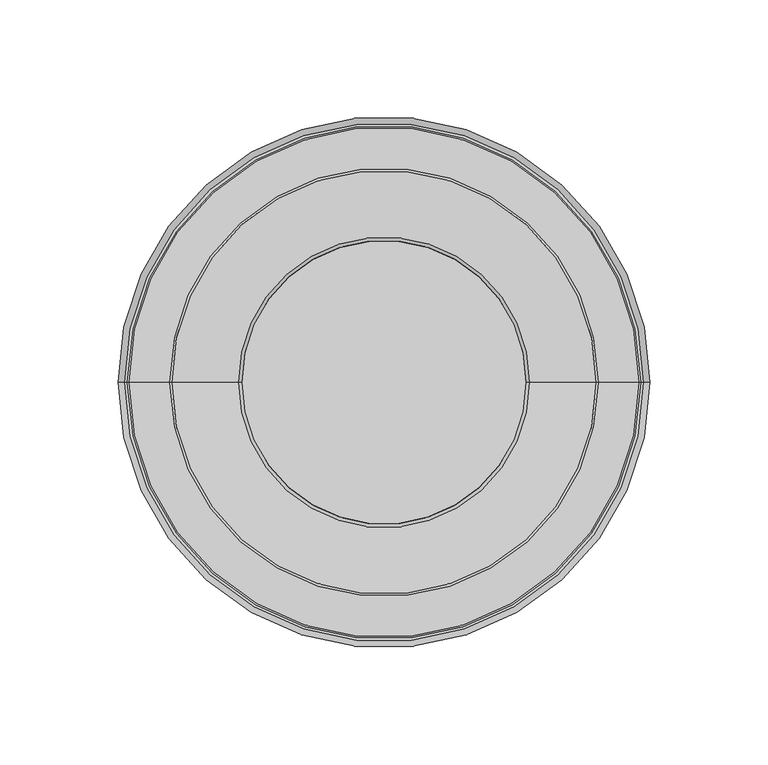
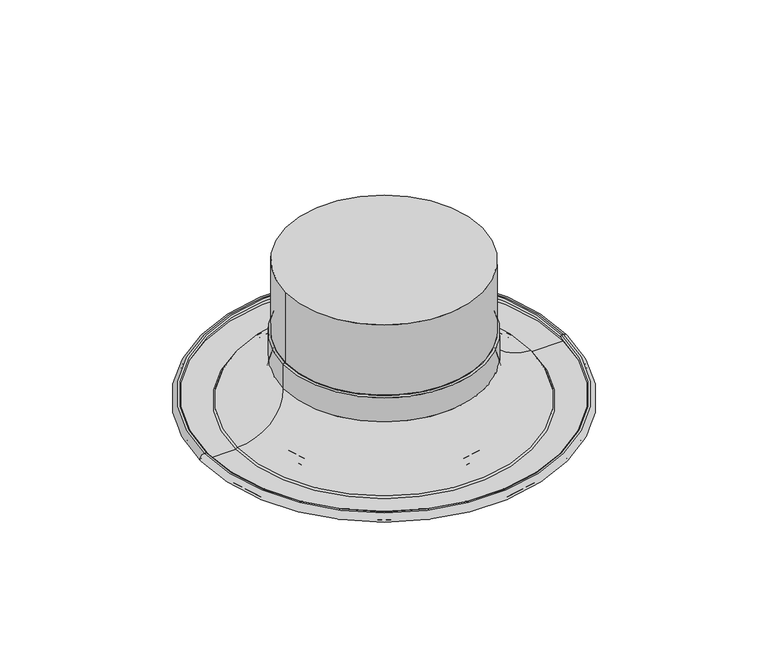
"""IFC4 building model written with IfcOpenShell, lengths in millimetres: air terminal geometry, AI_Bouche aération_Circulaire Extraction : ø125 mm."""

from ifc_helpers import new_model, si_unit, point, frame, origin, origin_with_axes, origin_2d, place, context, project, spatial, polyline, circle_curve, ellipse_curve, trimmed, segment, composite_curve, outline, extrude, source, transform, mapped, element, save
from ifc_brep_helpers import plane_surface, cylinder_surface, revolved_surface, advanced_brep


def air_terminal_857865db(model_context):
    return source(origin(), model_context, "Body", "SolidModel", [
        extrude(outline(composite_curve([segment(trimmed(circle_curve(origin_2d(), 60.0), [point((60.0, 0.0))], [point((-60.0, 0.0))], False, "CARTESIAN"), True, "CONTINUOUS"), segment(trimmed(circle_curve(origin_2d(), 60.0), [point((-60.0, 0.0))], [point((60.0, 0.0))], False, "CARTESIAN"), True, "CONTINUOUS")], self_intersect=False)), frame((0.0, 0.0, 41.2), z_axis=(0.0, 0.0, 1.0), x_axis=(1.0, 0.0, 0.0)), (0.0, 0.0, 1.0), 45.4),
        advanced_brep(
        [(-42.4021074, 0.0, 20.3), (-44.6975243, 0.0, 18.1451243), (44.6975243, 0.0, 18.1451243), (42.4021074, 0.0, 20.3), (-40.0, 0.0, 20.3), (40.0, 0.0, 20.3), (-40.0, 0.0, 19.0), (40.0, 0.0, 19.0), (-42.4021074, 0.0, 19.0), (42.4021074, 0.0, 19.0), (-43.4001147, 0.0, 18.0630975), (43.4001147, 0.0, 18.0630975), (-68.5, 0.0, -5.5), (68.5, 0.0, -5.5), (-73.27, 0.0, -5.5), (73.27, 0.0, -5.5), (-73.27, 0.0, -0.7), (73.27, 0.0, -0.7), (-72.27, 0.0, -0.7), (72.27, 0.0, -0.7), (-72.27, 0.0, -2.0), (72.27, 0.0, -2.0), (-73.27, 0.0, -2.0), (73.27, 0.0, -2.0), (-73.27, 0.0, -4.2), (73.27, 0.0, -4.2), (-68.5, 0.0, -4.2), (68.5, 0.0, -4.2)],
        [
            (0, 1, circle_curve(frame((-42.4021074, 0.0, 18.0), z_axis=(0.0, -1.0, 0.0), x_axis=(-1.0, 0.0, 0.0)), 2.3)),
            (1, 2, circle_curve(frame((0.0, 0.0, 18.1451243), z_axis=(0.0, 0.0, 1.0), x_axis=(1.0, 0.0, 0.0)), 44.6975243)),
            (2, 3, circle_curve(frame((42.4021074, 0.0, 18.0), z_axis=(0.0, -1.0, 0.0), x_axis=(1.0, 0.0, 0.0)), 2.3)),
            (3, 0, circle_curve(frame((0.0, 0.0, 20.3), z_axis=(0.0, 0.0, -1.0), x_axis=(1.0, 0.0, 0.0)), 42.4021074)),
            (2, 1, circle_curve(frame((0.0, 0.0, 18.1451243), z_axis=(0.0, 0.0, 1.0), x_axis=(1.0, 0.0, 0.0)), 44.6975243)),
            (0, 3, circle_curve(frame((0.0, 0.0, 20.3), z_axis=(0.0, 0.0, -1.0), x_axis=(1.0, 0.0, 0.0)), 42.4021074)),
            (4, 0),
            (3, 5),
            (5, 4, circle_curve(frame((0.0, 0.0, 20.3), z_axis=(0.0, 0.0, -1.0), x_axis=(1.0, 0.0, 0.0)), 40.0)),
            (4, 5, circle_curve(frame((0.0, 0.0, 20.3), z_axis=(0.0, 0.0, -1.0), x_axis=(1.0, 0.0, 0.0)), 40.0)),
            (6, 4, circle_curve(frame((-40.0, 0.0, 19.65), z_axis=(0.0, -1.0, 0.0), x_axis=(-1.0, 0.0, 0.0)), 0.65)),
            (5, 7, circle_curve(frame((40.0, 0.0, 19.65), z_axis=(0.0, -1.0, 0.0), x_axis=(1.0, 0.0, 0.0)), 0.65)),
            (7, 6, circle_curve(frame((0.0, 0.0, 19.0), z_axis=(0.0, 0.0, -1.0), x_axis=(1.0, 0.0, 0.0)), 40.0)),
            (6, 7, circle_curve(frame((0.0, 0.0, 19.0), z_axis=(0.0, 0.0, -1.0), x_axis=(1.0, 0.0, 0.0)), 40.0)),
            (8, 6),
            (7, 9),
            (9, 8, circle_curve(frame((0.0, 0.0, 19.0), z_axis=(0.0, 0.0, -1.0), x_axis=(1.0, 0.0, 0.0)), 42.4021074)),
            (8, 9, circle_curve(frame((0.0, 0.0, 19.0), z_axis=(0.0, 0.0, -1.0), x_axis=(1.0, 0.0, 0.0)), 42.4021074)),
            (10, 8, circle_curve(frame((-42.4021074, 0.0, 18.0), z_axis=(0.0, 1.0, 0.0), x_axis=(-1.0, 0.0, 0.0)), 1.0)),
            (9, 11, circle_curve(frame((42.4021074, 0.0, 18.0), z_axis=(0.0, 1.0, 0.0), x_axis=(1.0, 0.0, 0.0)), 1.0)),
            (11, 10, circle_curve(frame((0.0, 0.0, 18.0630975), z_axis=(0.0, 0.0, -1.0), x_axis=(1.0, 0.0, 0.0)), 43.4001147)),
            (10, 11, circle_curve(frame((0.0, 0.0, 18.0630975), z_axis=(0.0, 0.0, -1.0), x_axis=(1.0, 0.0, 0.0)), 43.4001147)),
            (12, 10, circle_curve(frame((-68.5, 0.0, 19.65), z_axis=(0.0, -1.0, 0.0), x_axis=(-1.0, 0.0, 0.0)), 25.15)),
            (11, 13, circle_curve(frame((68.5, 0.0, 19.65), z_axis=(0.0, -1.0, 0.0), x_axis=(1.0, 0.0, 0.0)), 25.15)),
            (13, 12, circle_curve(frame((0.0, 0.0, -5.5), z_axis=(0.0, 0.0, -1.0), x_axis=(1.0, 0.0, 0.0)), 68.5)),
            (12, 13, circle_curve(frame((0.0, 0.0, -5.5), z_axis=(0.0, 0.0, -1.0), x_axis=(1.0, 0.0, 0.0)), 68.5)),
            (14, 12),
            (13, 15),
            (15, 14, circle_curve(frame((0.0, 0.0, -5.5), z_axis=(0.0, 0.0, -1.0), x_axis=(1.0, 0.0, 0.0)), 73.27)),
            (14, 15, circle_curve(frame((0.0, 0.0, -5.5), z_axis=(0.0, 0.0, -1.0), x_axis=(1.0, 0.0, 0.0)), 73.27)),
            (16, 14, circle_curve(frame((-73.27, 0.0, -3.1), z_axis=(0.0, -1.0, 0.0), x_axis=(-1.0, 0.0, 0.0)), 2.4)),
            (15, 17, circle_curve(frame((73.27, 0.0, -3.1), z_axis=(0.0, -1.0, 0.0), x_axis=(1.0, 0.0, 0.0)), 2.4)),
            (17, 16, circle_curve(frame((0.0, 0.0, -0.7), z_axis=(0.0, 0.0, -1.0), x_axis=(1.0, 0.0, 0.0)), 73.27)),
            (16, 17, circle_curve(frame((0.0, 0.0, -0.7), z_axis=(0.0, 0.0, -1.0), x_axis=(1.0, 0.0, 0.0)), 73.27)),
            (18, 16),
            (17, 19),
            (19, 18, circle_curve(frame((0.0, 0.0, -0.7), z_axis=(0.0, 0.0, -1.0), x_axis=(1.0, 0.0, 0.0)), 72.27)),
            (18, 19, circle_curve(frame((0.0, 0.0, -0.7), z_axis=(0.0, 0.0, -1.0), x_axis=(1.0, 0.0, 0.0)), 72.27)),
            (20, 18, circle_curve(frame((-72.27, 0.0, -1.35), z_axis=(0.0, -1.0, 0.0), x_axis=(-1.0, 0.0, 0.0)), 0.65)),
            (19, 21, circle_curve(frame((72.27, 0.0, -1.35), z_axis=(0.0, -1.0, 0.0), x_axis=(1.0, 0.0, 0.0)), 0.65)),
            (21, 20, circle_curve(frame((0.0, 0.0, -2.0), z_axis=(0.0, 0.0, -1.0), x_axis=(1.0, 0.0, 0.0)), 72.27)),
            (20, 21, circle_curve(frame((0.0, 0.0, -2.0), z_axis=(0.0, 0.0, -1.0), x_axis=(1.0, 0.0, 0.0)), 72.27)),
            (22, 20),
            (21, 23),
            (23, 22, circle_curve(frame((0.0, 0.0, -2.0), z_axis=(0.0, 0.0, -1.0), x_axis=(1.0, 0.0, 0.0)), 73.27)),
            (22, 23, circle_curve(frame((0.0, 0.0, -2.0), z_axis=(0.0, 0.0, -1.0), x_axis=(1.0, 0.0, 0.0)), 73.27)),
            (24, 22, circle_curve(frame((-73.27, 0.0, -3.1), z_axis=(0.0, 1.0, 0.0), x_axis=(-1.0, 0.0, 0.0)), 1.1)),
            (23, 25, circle_curve(frame((73.27, 0.0, -3.1), z_axis=(0.0, 1.0, 0.0), x_axis=(1.0, 0.0, 0.0)), 1.1)),
            (25, 24, circle_curve(frame((0.0, 0.0, -4.2), z_axis=(0.0, 0.0, -1.0), x_axis=(1.0, 0.0, 0.0)), 73.27)),
            (24, 25, circle_curve(frame((0.0, 0.0, -4.2), z_axis=(0.0, 0.0, -1.0), x_axis=(1.0, 0.0, 0.0)), 73.27)),
            (26, 24),
            (25, 27),
            (27, 26, circle_curve(frame((0.0, 0.0, -4.2), z_axis=(0.0, 0.0, -1.0), x_axis=(1.0, 0.0, 0.0)), 68.5)),
            (26, 27, circle_curve(frame((0.0, 0.0, -4.2), z_axis=(0.0, 0.0, -1.0), x_axis=(1.0, 0.0, 0.0)), 68.5)),
            (1, 26, circle_curve(frame((-68.5, 0.0, 19.65), z_axis=(0.0, 1.0, 0.0), x_axis=(-1.0, 0.0, 0.0)), 23.85)),
            (27, 2, circle_curve(frame((68.5, 0.0, 19.65), z_axis=(0.0, 1.0, 0.0), x_axis=(1.0, 0.0, 0.0)), 23.85)),
        ],
        [
            revolved_surface(trimmed(ellipse_curve(frame((42.4021074, 0.0, 18.0), z_axis=(0.0, -1.0, 0.0), x_axis=(1.0, 0.0, 0.0)), 2.3, 2.3), [point((44.6975243, 0.0, 18.1451243))], [point((42.4021074, 0.0, 20.3))], True, "CARTESIAN"), (0.0, 0.0, 1789.7688894), (0.0, 0.0, 1.0)),
            plane_surface(frame((0.0, 0.0, 20.3), z_axis=(0.0, 0.0, 1.0), x_axis=(1.0, 0.0, 0.0))),
            revolved_surface(trimmed(ellipse_curve(frame((40.0, 0.0, 19.65), z_axis=(0.0, -1.0, 0.0), x_axis=(1.0, 0.0, 0.0)), 0.65, 0.65), [point((40.0, 0.0, 20.3))], [point((40.0, 0.0, 19.0))], True, "CARTESIAN"), (0.0, 0.0, 1789.7688894), (0.0, 0.0, 1.0)),
            plane_surface(frame((0.0, 0.0, 19.0), z_axis=(0.0, 0.0, -1.0), x_axis=(1.0, 0.0, 0.0))),
            revolved_surface(trimmed(ellipse_curve(frame((42.4021074, 0.0, 18.0), z_axis=(0.0, 1.0, 0.0), x_axis=(1.0, 0.0, 0.0)), 1.0, 1.0), [point((42.4021074, 0.0, 19.0))], [point((43.4001147, 0.0, 18.0630975))], True, "CARTESIAN"), (0.0, 0.0, 1789.7688894), (0.0, 0.0, 1.0)),
            revolved_surface(trimmed(ellipse_curve(frame((68.5, 0.0, 19.65), z_axis=(0.0, -1.0, 0.0), x_axis=(1.0, 0.0, 0.0)), 25.15, 25.15), [point((43.4001147, 0.0, 18.0630975))], [point((68.5, 0.0, -5.5))], True, "CARTESIAN"), (0.0, 0.0, 1789.7688894), (0.0, 0.0, 1.0)),
            plane_surface(frame((0.0, 0.0, -5.5), z_axis=(0.0, 0.0, -1.0), x_axis=(1.0, 0.0, 0.0))),
            revolved_surface(trimmed(ellipse_curve(frame((73.27, 0.0, -3.1), z_axis=(0.0, -1.0, 0.0), x_axis=(1.0, 0.0, 0.0)), 2.4, 2.4), [point((73.27, 0.0, -5.5))], [point((73.27, 0.0, -0.7))], True, "CARTESIAN"), (0.0, 0.0, 1789.7688894), (0.0, 0.0, 1.0)),
            plane_surface(frame((0.0, 0.0, -0.7), z_axis=(0.0, 0.0, 1.0), x_axis=(1.0, 0.0, 0.0))),
            revolved_surface(trimmed(ellipse_curve(frame((72.27, 0.0, -1.35), z_axis=(0.0, -1.0, 0.0), x_axis=(1.0, 0.0, 0.0)), 0.65, 0.65), [point((72.27, 0.0, -0.7))], [point((72.27, 0.0, -2.0))], True, "CARTESIAN"), (0.0, 0.0, 1789.7688894), (0.0, 0.0, 1.0)),
            plane_surface(frame((0.0, 0.0, -2.0), z_axis=(0.0, 0.0, -1.0), x_axis=(1.0, 0.0, 0.0))),
            revolved_surface(trimmed(ellipse_curve(frame((73.27, 0.0, -3.1), z_axis=(0.0, 1.0, 0.0), x_axis=(1.0, 0.0, 0.0)), 1.1, 1.1), [point((73.27, 0.0, -2.0))], [point((73.27, 0.0, -4.2))], True, "CARTESIAN"), (0.0, 0.0, 1789.7688894), (0.0, 0.0, 1.0)),
            plane_surface(frame((0.0, 0.0, -4.2), z_axis=(0.0, 0.0, 1.0), x_axis=(1.0, 0.0, 0.0))),
            revolved_surface(trimmed(ellipse_curve(frame((68.5, 0.0, 19.65), z_axis=(0.0, 1.0, 0.0), x_axis=(1.0, 0.0, 0.0)), 23.85, 23.85), [point((68.5, 0.0, -4.2))], [point((44.6975243, 0.0, 18.1451243))], True, "CARTESIAN"), (0.0, 0.0, 1789.7688894), (0.0, 0.0, 1.0)),
        ],
        [
            (0, [[1, 2, 3, 4]]),
            (0, [[-3, 5, -1, 6]]),
            (1, [[7, -4, 8, 9]]),
            (1, [[-8, -6, -7, 10]]),
            (2, [[11, -9, 12, 13]]),
            (2, [[-12, -10, -11, 14]]),
            (3, [[15, -13, 16, 17]]),
            (3, [[-16, -14, -15, 18]]),
            (4, [[19, -17, 20, 21]]),
            (4, [[-20, -18, -19, 22]]),
            (5, [[23, -21, 24, 25]]),
            (5, [[-24, -22, -23, 26]]),
            (6, [[27, -25, 28, 29]]),
            (6, [[-28, -26, -27, 30]]),
            (7, [[31, -29, 32, 33]]),
            (7, [[-32, -30, -31, 34]]),
            (8, [[35, -33, 36, 37]]),
            (8, [[-36, -34, -35, 38]]),
            (9, [[39, -37, 40, 41]]),
            (9, [[-40, -38, -39, 42]]),
            (10, [[43, -41, 44, 45]]),
            (10, [[-44, -42, -43, 46]]),
            (11, [[47, -45, 48, 49]]),
            (11, [[-48, -46, -47, 50]]),
            (12, [[51, -49, 52, 53]]),
            (12, [[-52, -50, -51, 54]]),
            (13, [[55, -53, 56, -2]]),
            (13, [[-56, -54, -55, -5]]),
        ],
    ),
        advanced_brep(
        [(-41.27, 0.0, -5.5), (-36.5, 0.0, -5.5), (36.5, 0.0, -5.5), (41.27, 0.0, -5.5), (-41.27, 0.0, -0.7), (41.27, 0.0, -0.7), (-40.27, 0.0, -0.7), (40.27, 0.0, -0.7), (-40.27, 0.0, -2.0), (40.27, 0.0, -2.0), (-41.27, 0.0, -2.0), (41.27, 0.0, -2.0), (-41.27, 0.0, -4.2), (41.27, 0.0, -4.2), (-36.5, 0.0, -4.2), (36.5, 0.0, -4.2), (-12.6975243, 0.0, 18.1451243), (12.6975243, 0.0, 18.1451243), (-10.4021074, 0.0, 20.3), (10.4021074, 0.0, 20.3), (0.0, 0.0, 20.3), (-5.8512508, 0.0, 14.3598455), (0.0, 0.0, 14.3598455), (5.8512508, 0.0, 14.3598455), (-6.85, 0.0, 15.3098455), (6.85, 0.0, 15.3098455), (-6.85, 0.0, 19.0), (6.85, 0.0, 19.0), (-10.4021074, 0.0, 19.0), (10.4021074, 0.0, 19.0), (-11.4001147, 0.0, 18.0630975), (11.4001147, 0.0, 18.0630975)],
        [
            (0, 1),
            (1, 2, circle_curve(frame((0.0, 0.0, -5.5), z_axis=(0.0, 0.0, 1.0), x_axis=(1.0, 0.0, 0.0)), 36.5)),
            (2, 3),
            (3, 0, circle_curve(frame((0.0, 0.0, -5.5), z_axis=(0.0, 0.0, -1.0), x_axis=(1.0, 0.0, 0.0)), 41.27)),
            (2, 1, circle_curve(frame((0.0, 0.0, -5.5), z_axis=(0.0, 0.0, 1.0), x_axis=(1.0, 0.0, 0.0)), 36.5)),
            (0, 3, circle_curve(frame((0.0, 0.0, -5.5), z_axis=(0.0, 0.0, -1.0), x_axis=(1.0, 0.0, 0.0)), 41.27)),
            (4, 0, circle_curve(frame((-41.27, 0.0, -3.1), z_axis=(0.0, -1.0, 0.0), x_axis=(-1.0, 0.0, 0.0)), 2.4)),
            (3, 5, circle_curve(frame((41.27, 0.0, -3.1), z_axis=(0.0, -1.0, 0.0), x_axis=(1.0, 0.0, 0.0)), 2.4)),
            (5, 4, circle_curve(frame((0.0, 0.0, -0.7), z_axis=(0.0, 0.0, -1.0), x_axis=(1.0, 0.0, 0.0)), 41.27)),
            (4, 5, circle_curve(frame((0.0, 0.0, -0.7), z_axis=(0.0, 0.0, -1.0), x_axis=(1.0, 0.0, 0.0)), 41.27)),
            (6, 4),
            (5, 7),
            (7, 6, circle_curve(frame((0.0, 0.0, -0.7), z_axis=(0.0, 0.0, -1.0), x_axis=(1.0, 0.0, 0.0)), 40.27)),
            (6, 7, circle_curve(frame((0.0, 0.0, -0.7), z_axis=(0.0, 0.0, -1.0), x_axis=(1.0, 0.0, 0.0)), 40.27)),
            (8, 6, circle_curve(frame((-40.27, 0.0, -1.35), z_axis=(0.0, -1.0, 0.0), x_axis=(-1.0, 0.0, 0.0)), 0.65)),
            (7, 9, circle_curve(frame((40.27, 0.0, -1.35), z_axis=(0.0, -1.0, 0.0), x_axis=(1.0, 0.0, 0.0)), 0.65)),
            (9, 8, circle_curve(frame((0.0, 0.0, -2.0), z_axis=(0.0, 0.0, -1.0), x_axis=(1.0, 0.0, 0.0)), 40.27)),
            (8, 9, circle_curve(frame((0.0, 0.0, -2.0), z_axis=(0.0, 0.0, -1.0), x_axis=(1.0, 0.0, 0.0)), 40.27)),
            (10, 8),
            (9, 11),
            (11, 10, circle_curve(frame((0.0, 0.0, -2.0), z_axis=(0.0, 0.0, -1.0), x_axis=(1.0, 0.0, 0.0)), 41.27)),
            (10, 11, circle_curve(frame((0.0, 0.0, -2.0), z_axis=(0.0, 0.0, -1.0), x_axis=(1.0, 0.0, 0.0)), 41.27)),
            (12, 10, circle_curve(frame((-41.27, 0.0, -3.1), z_axis=(0.0, 1.0, 0.0), x_axis=(-1.0, 0.0, 0.0)), 1.1)),
            (11, 13, circle_curve(frame((41.27, 0.0, -3.1), z_axis=(0.0, 1.0, 0.0), x_axis=(1.0, 0.0, 0.0)), 1.1)),
            (13, 12, circle_curve(frame((0.0, 0.0, -4.2), z_axis=(0.0, 0.0, -1.0), x_axis=(1.0, 0.0, 0.0)), 41.27)),
            (12, 13, circle_curve(frame((0.0, 0.0, -4.2), z_axis=(0.0, 0.0, -1.0), x_axis=(1.0, 0.0, 0.0)), 41.27)),
            (14, 12),
            (13, 15),
            (15, 14, circle_curve(frame((0.0, 0.0, -4.2), z_axis=(0.0, 0.0, -1.0), x_axis=(1.0, 0.0, 0.0)), 36.5)),
            (14, 15, circle_curve(frame((0.0, 0.0, -4.2), z_axis=(0.0, 0.0, -1.0), x_axis=(1.0, 0.0, 0.0)), 36.5)),
            (16, 14, circle_curve(frame((-36.5, 0.0, 19.65), z_axis=(0.0, 1.0, 0.0), x_axis=(-1.0, 0.0, 0.0)), 23.85)),
            (15, 17, circle_curve(frame((36.5, 0.0, 19.65), z_axis=(0.0, 1.0, 0.0), x_axis=(1.0, 0.0, 0.0)), 23.85)),
            (17, 16, circle_curve(frame((0.0, 0.0, 18.1451243), z_axis=(0.0, 0.0, -1.0), x_axis=(1.0, 0.0, 0.0)), 12.6975243)),
            (16, 17, circle_curve(frame((0.0, 0.0, 18.1451243), z_axis=(0.0, 0.0, -1.0), x_axis=(1.0, 0.0, 0.0)), 12.6975243)),
            (18, 16, circle_curve(frame((-10.4021074, 0.0, 18.0), z_axis=(0.0, -1.0, 0.0), x_axis=(-1.0, 0.0, 0.0)), 2.3)),
            (17, 19, circle_curve(frame((10.4021074, 0.0, 18.0), z_axis=(0.0, -1.0, 0.0), x_axis=(1.0, 0.0, 0.0)), 2.3)),
            (19, 18, circle_curve(frame((0.0, 0.0, 20.3), z_axis=(0.0, 0.0, -1.0), x_axis=(1.0, 0.0, 0.0)), 10.4021074)),
            (18, 19, circle_curve(frame((0.0, 0.0, 20.3), z_axis=(0.0, 0.0, -1.0), x_axis=(1.0, 0.0, 0.0)), 10.4021074)),
            (20, 18),
            (19, 20),
            (21, 22),
            (22, 23),
            (23, 21, circle_curve(frame((0.0, 0.0, 14.3598455), z_axis=(0.0, 0.0, -1.0), x_axis=(1.0, 0.0, 0.0)), 5.8512508)),
            (21, 23, circle_curve(frame((0.0, 0.0, 14.3598455), z_axis=(0.0, 0.0, -1.0), x_axis=(1.0, 0.0, 0.0)), 5.8512508)),
            (24, 21, circle_curve(frame((-5.8512508, 0.0, 15.3598455), z_axis=(0.0, -1.0, 0.0), x_axis=(-1.0, 0.0, 0.0)), 1.0)),
            (23, 25, circle_curve(frame((5.8512508, 0.0, 15.3598455), z_axis=(0.0, -1.0, 0.0), x_axis=(1.0, 0.0, 0.0)), 1.0)),
            (25, 24, circle_curve(frame((0.0, 0.0, 15.3098455), z_axis=(0.0, 0.0, -1.0), x_axis=(1.0, 0.0, 0.0)), 6.85)),
            (24, 25, circle_curve(frame((0.0, 0.0, 15.3098455), z_axis=(0.0, 0.0, -1.0), x_axis=(1.0, 0.0, 0.0)), 6.85)),
            (26, 24),
            (25, 27),
            (27, 26, circle_curve(frame((0.0, 0.0, 19.0), z_axis=(0.0, 0.0, -1.0), x_axis=(1.0, 0.0, 0.0)), 6.85)),
            (26, 27, circle_curve(frame((0.0, 0.0, 19.0), z_axis=(0.0, 0.0, -1.0), x_axis=(1.0, 0.0, 0.0)), 6.85)),
            (28, 26),
            (27, 29),
            (29, 28, circle_curve(frame((0.0, 0.0, 19.0), z_axis=(0.0, 0.0, -1.0), x_axis=(1.0, 0.0, 0.0)), 10.4021074)),
            (28, 29, circle_curve(frame((0.0, 0.0, 19.0), z_axis=(0.0, 0.0, -1.0), x_axis=(1.0, 0.0, 0.0)), 10.4021074)),
            (30, 28, circle_curve(frame((-10.4021074, 0.0, 18.0), z_axis=(0.0, 1.0, 0.0), x_axis=(-1.0, 0.0, 0.0)), 1.0)),
            (29, 31, circle_curve(frame((10.4021074, 0.0, 18.0), z_axis=(0.0, 1.0, 0.0), x_axis=(1.0, 0.0, 0.0)), 1.0)),
            (31, 30, circle_curve(frame((0.0, 0.0, 18.0630975), z_axis=(0.0, 0.0, -1.0), x_axis=(1.0, 0.0, 0.0)), 11.4001147)),
            (30, 31, circle_curve(frame((0.0, 0.0, 18.0630975), z_axis=(0.0, 0.0, -1.0), x_axis=(1.0, 0.0, 0.0)), 11.4001147)),
            (1, 30, circle_curve(frame((-36.5, 0.0, 19.65), z_axis=(0.0, -1.0, 0.0), x_axis=(-1.0, 0.0, 0.0)), 25.15)),
            (31, 2, circle_curve(frame((36.5, 0.0, 19.65), z_axis=(0.0, -1.0, 0.0), x_axis=(1.0, 0.0, 0.0)), 25.15)),
        ],
        [
            plane_surface(frame((0.0, 0.0, -5.5), z_axis=(0.0, 0.0, -1.0), x_axis=(1.0, 0.0, 0.0))),
            revolved_surface(trimmed(ellipse_curve(frame((41.27, 0.0, -3.1), z_axis=(0.0, -1.0, 0.0), x_axis=(1.0, 0.0, 0.0)), 2.4, 2.4), [point((41.27, 0.0, -5.5))], [point((41.27, 0.0, -0.7))], True, "CARTESIAN"), (0.0, 0.0, 1789.7688894), (0.0, 0.0, 1.0)),
            plane_surface(frame((0.0, 0.0, -0.7), z_axis=(0.0, 0.0, 1.0), x_axis=(1.0, 0.0, 0.0))),
            revolved_surface(trimmed(ellipse_curve(frame((40.27, 0.0, -1.35), z_axis=(0.0, -1.0, 0.0), x_axis=(1.0, 0.0, 0.0)), 0.65, 0.65), [point((40.27, 0.0, -0.7))], [point((40.27, 0.0, -2.0))], True, "CARTESIAN"), (0.0, 0.0, 1789.7688894), (0.0, 0.0, 1.0)),
            plane_surface(frame((0.0, 0.0, -2.0), z_axis=(0.0, 0.0, -1.0), x_axis=(1.0, 0.0, 0.0))),
            revolved_surface(trimmed(ellipse_curve(frame((41.27, 0.0, -3.1), z_axis=(0.0, 1.0, 0.0), x_axis=(1.0, 0.0, 0.0)), 1.1, 1.1), [point((41.27, 0.0, -2.0))], [point((41.27, 0.0, -4.2))], True, "CARTESIAN"), (0.0, 0.0, 1789.7688894), (0.0, 0.0, 1.0)),
            plane_surface(frame((0.0, 0.0, -4.2), z_axis=(0.0, 0.0, 1.0), x_axis=(1.0, 0.0, 0.0))),
            revolved_surface(trimmed(ellipse_curve(frame((36.5, 0.0, 19.65), z_axis=(0.0, 1.0, 0.0), x_axis=(1.0, 0.0, 0.0)), 23.85, 23.85), [point((36.5, 0.0, -4.2))], [point((12.6975243, 0.0, 18.1451243))], True, "CARTESIAN"), (0.0, 0.0, 1789.7688894), (0.0, 0.0, 1.0)),
            revolved_surface(trimmed(ellipse_curve(frame((10.4021074, 0.0, 18.0), z_axis=(0.0, -1.0, 0.0), x_axis=(1.0, 0.0, 0.0)), 2.3, 2.3), [point((12.6975243, 0.0, 18.1451243))], [point((10.4021074, 0.0, 20.3))], True, "CARTESIAN"), (0.0, 0.0, 1789.7688894), (0.0, 0.0, 1.0)),
            plane_surface(frame((0.0, 0.0, 20.3), z_axis=(0.0, 0.0, 1.0), x_axis=(1.0, 0.0, 0.0))),
            plane_surface(frame((0.0, 0.0, 14.3598455), z_axis=(0.0, 0.0, -1.0), x_axis=(1.0, 0.0, 0.0))),
            revolved_surface(trimmed(ellipse_curve(frame((5.8512508, 0.0, 15.3598455), z_axis=(0.0, -1.0, 0.0), x_axis=(1.0, 0.0, 0.0)), 1.0, 1.0), [point((5.8512508, 0.0, 14.3598455))], [point((6.85, 0.0, 15.3098455))], True, "CARTESIAN"), (0.0, 0.0, 1789.7688894), (0.0, 0.0, 1.0)),
            cylinder_surface(frame((0.0, 0.0, 1789.7688894), z_axis=(0.0, 0.0, 1.0), x_axis=(1.0, 0.0, 0.0)), 6.85),
            plane_surface(frame((0.0, 0.0, 19.0), z_axis=(0.0, 0.0, -1.0), x_axis=(1.0, 0.0, 0.0))),
            revolved_surface(trimmed(ellipse_curve(frame((10.4021074, 0.0, 18.0), z_axis=(0.0, 1.0, 0.0), x_axis=(1.0, 0.0, 0.0)), 1.0, 1.0), [point((10.4021074, 0.0, 19.0))], [point((11.4001147, 0.0, 18.0630975))], True, "CARTESIAN"), (0.0, 0.0, 1789.7688894), (0.0, 0.0, 1.0)),
            revolved_surface(trimmed(ellipse_curve(frame((36.5, 0.0, 19.65), z_axis=(0.0, -1.0, 0.0), x_axis=(1.0, 0.0, 0.0)), 25.15, 25.15), [point((11.4001147, 0.0, 18.0630975))], [point((36.5, 0.0, -5.5))], True, "CARTESIAN"), (0.0, 0.0, 1789.7688894), (0.0, 0.0, 1.0)),
        ],
        [
            (0, [[1, 2, 3, 4]]),
            (0, [[-3, 5, -1, 6]]),
            (1, [[7, -4, 8, 9]]),
            (1, [[-8, -6, -7, 10]]),
            (2, [[11, -9, 12, 13]]),
            (2, [[-12, -10, -11, 14]]),
            (3, [[15, -13, 16, 17]]),
            (3, [[-16, -14, -15, 18]]),
            (4, [[19, -17, 20, 21]]),
            (4, [[-20, -18, -19, 22]]),
            (5, [[23, -21, 24, 25]]),
            (5, [[-24, -22, -23, 26]]),
            (6, [[27, -25, 28, 29]]),
            (6, [[-28, -26, -27, 30]]),
            (7, [[31, -29, 32, 33]]),
            (7, [[-32, -30, -31, 34]]),
            (8, [[35, -33, 36, 37]]),
            (8, [[-36, -34, -35, 38]]),
            (9, [[39, -37, 40]]),
            (9, [[-40, -38, -39]]),
            (10, [[41, 42, 43]]),
            (10, [[-42, -41, 44]]),
            (11, [[45, -43, 46, 47]]),
            (11, [[-46, -44, -45, 48]]),
            (12, [[49, -47, 50, 51]]),
            (12, [[-50, -48, -49, 52]]),
            (13, [[53, -51, 54, 55]]),
            (13, [[-54, -52, -53, 56]]),
            (14, [[57, -55, 58, 59]]),
            (14, [[-58, -56, -57, 60]]),
            (15, [[61, -59, 62, -2]]),
            (15, [[-62, -60, -61, -5]]),
        ],
    ),
        advanced_brep(
        [(-108.75, 0.0, 0.0), (-109.75, 0.0, 0.0), (109.75, 0.0, 0.0), (108.75, 0.0, 0.0), (-108.75, 0.0, -1.2999995), (108.75, 0.0, -1.2999995), (-109.75, 0.0, -1.2999995), (109.75, 0.0, -1.2999995), (-109.75, 0.0, -4.1991736), (109.75, 0.0, -4.1991736), (-90.8001846, 0.0, -4.1991736), (90.8001846, 0.0, -4.1991736), (-89.7992909, 0.0, -3.19828), (89.7992909, 0.0, -3.19828), (-61.5, 0.0, 24.8756135), (61.5, 0.0, 24.8756135), (-60.2, 0.0, 40.5), (-61.5, 0.0, 40.5), (61.5, 0.0, 40.5), (60.2, 0.0, 40.5), (-60.2, 0.0, 24.4500005), (60.2, 0.0, 24.4500005), (-87.5550919, 0.0, -4.456033), (87.5550919, 0.0, -4.456033), (-88.259052, 0.0, -4.8034841), (88.259052, 0.0, -4.8034841), (-89.7759333, 0.0, -5.5), (89.7759333, 0.0, -5.5), (-109.75, 0.0, -5.5), (109.75, 0.0, -5.5)],
        [
            (0, 1),
            (1, 2, circle_curve(origin_with_axes(), 109.75)),
            (2, 3),
            (3, 0, circle_curve(frame((0.0, 0.0, 0.0), z_axis=(0.0, 0.0, -1.0), x_axis=(1.0, 0.0, 0.0)), 108.75)),
            (2, 1, circle_curve(origin_with_axes(), 109.75)),
            (0, 3, circle_curve(frame((0.0, 0.0, 0.0), z_axis=(0.0, 0.0, -1.0), x_axis=(1.0, 0.0, 0.0)), 108.75)),
            (4, 0, circle_curve(frame((-108.75, 0.0, -0.6499998), z_axis=(0.0, -1.0, 0.0), x_axis=(-1.0, 0.0, 0.0)), 0.6499998)),
            (3, 5, circle_curve(frame((108.75, 0.0, -0.6499998), z_axis=(0.0, -1.0, 0.0), x_axis=(1.0, 0.0, 0.0)), 0.6499998)),
            (5, 4, circle_curve(frame((0.0, 0.0, -1.2999995), z_axis=(0.0, 0.0, -1.0), x_axis=(1.0, 0.0, 0.0)), 108.75)),
            (4, 5, circle_curve(frame((0.0, 0.0, -1.2999995), z_axis=(0.0, 0.0, -1.0), x_axis=(1.0, 0.0, 0.0)), 108.75)),
            (6, 4),
            (5, 7),
            (7, 6, circle_curve(frame((0.0, 0.0, -1.2999995), z_axis=(0.0, 0.0, -1.0), x_axis=(1.0, 0.0, 0.0)), 109.75)),
            (6, 7, circle_curve(frame((0.0, 0.0, -1.2999995), z_axis=(0.0, 0.0, -1.0), x_axis=(1.0, 0.0, 0.0)), 109.75)),
            (8, 6, circle_curve(frame((-109.75, 0.0, -2.7495866), z_axis=(0.0, 1.0, 0.0), x_axis=(-1.0, 0.0, 0.0)), 1.449587)),
            (7, 9, circle_curve(frame((109.75, 0.0, -2.7495866), z_axis=(0.0, 1.0, 0.0), x_axis=(1.0, 0.0, 0.0)), 1.449587)),
            (9, 8, circle_curve(frame((0.0, 0.0, -4.1991736), z_axis=(0.0, 0.0, -1.0), x_axis=(1.0, 0.0, 0.0)), 109.75)),
            (8, 9, circle_curve(frame((0.0, 0.0, -4.1991736), z_axis=(0.0, 0.0, -1.0), x_axis=(1.0, 0.0, 0.0)), 109.75)),
            (10, 8),
            (9, 11),
            (11, 10, circle_curve(frame((0.0, 0.0, -4.1991736), z_axis=(0.0, 0.0, -1.0), x_axis=(1.0, 0.0, 0.0)), 90.8001846)),
            (10, 11, circle_curve(frame((0.0, 0.0, -4.1991736), z_axis=(0.0, 0.0, -1.0), x_axis=(1.0, 0.0, 0.0)), 90.8001846)),
            (12, 10, circle_curve(frame((-90.8001846, 0.0, -3.19828), z_axis=(0.0, 1.0, 0.0), x_axis=(-1.0, 0.0, 0.0)), 1.0008937)),
            (11, 13, circle_curve(frame((90.8001846, 0.0, -3.19828), z_axis=(0.0, 1.0, 0.0), x_axis=(1.0, 0.0, 0.0)), 1.0008937)),
            (13, 12, circle_curve(frame((0.0, 0.0, -3.19828), z_axis=(0.0, 0.0, -1.0), x_axis=(1.0, 0.0, 0.0)), 89.7992909)),
            (12, 13, circle_curve(frame((0.0, 0.0, -3.19828), z_axis=(0.0, 0.0, -1.0), x_axis=(1.0, 0.0, 0.0)), 89.7992909)),
            (14, 12, circle_curve(frame((-89.1496309, 0.0, 24.4470398), z_axis=(0.0, 1.0, 0.0), x_axis=(-1.0, 0.0, 0.0)), 27.6529521)),
            (13, 15, circle_curve(frame((89.1496309, 0.0, 24.4470398), z_axis=(0.0, 1.0, 0.0), x_axis=(1.0, 0.0, 0.0)), 27.6529521)),
            (15, 14, circle_curve(frame((0.0, 0.0, 24.8756135), z_axis=(0.0, 0.0, -1.0), x_axis=(1.0, 0.0, 0.0)), 61.5)),
            (14, 15, circle_curve(frame((0.0, 0.0, 24.8756135), z_axis=(0.0, 0.0, -1.0), x_axis=(1.0, 0.0, 0.0)), 61.5)),
            (16, 17, circle_curve(frame((-60.85, 0.0, 40.5), z_axis=(0.0, -1.0, 0.0), x_axis=(-1.0, 0.0, 0.0)), 0.65)),
            (17, 18, circle_curve(frame((0.0, 0.0, 40.5), z_axis=(0.0, 0.0, 1.0), x_axis=(1.0, 0.0, 0.0)), 61.5)),
            (18, 19, circle_curve(frame((60.85, 0.0, 40.5), z_axis=(0.0, -1.0, 0.0), x_axis=(1.0, 0.0, 0.0)), 0.65)),
            (19, 16, circle_curve(frame((0.0, 0.0, 40.5), z_axis=(0.0, 0.0, -1.0), x_axis=(1.0, 0.0, 0.0)), 60.2)),
            (18, 17, circle_curve(frame((0.0, 0.0, 40.5), z_axis=(0.0, 0.0, 1.0), x_axis=(1.0, 0.0, 0.0)), 61.5)),
            (16, 19, circle_curve(frame((0.0, 0.0, 40.5), z_axis=(0.0, 0.0, -1.0), x_axis=(1.0, 0.0, 0.0)), 60.2)),
            (20, 16),
            (19, 21),
            (21, 20, circle_curve(frame((0.0, 0.0, 24.4500005), z_axis=(0.0, 0.0, -1.0), x_axis=(1.0, 0.0, 0.0)), 60.2)),
            (20, 21, circle_curve(frame((0.0, 0.0, 24.4500005), z_axis=(0.0, 0.0, -1.0), x_axis=(1.0, 0.0, 0.0)), 60.2)),
            (22, 20, circle_curve(frame((-89.15, 0.0, 24.4500005), z_axis=(0.0, -1.0, 0.0), x_axis=(-1.0, 0.0, 0.0)), 28.95)),
            (21, 23, circle_curve(frame((89.15, 0.0, 24.4500005), z_axis=(0.0, -1.0, 0.0), x_axis=(1.0, 0.0, 0.0)), 28.95)),
            (23, 22, circle_curve(frame((0.0, 0.0, -4.456033), z_axis=(0.0, 0.0, -1.0), x_axis=(1.0, 0.0, 0.0)), 87.5550919)),
            (22, 23, circle_curve(frame((0.0, 0.0, -4.456033), z_axis=(0.0, 0.0, -1.0), x_axis=(1.0, 0.0, 0.0)), 87.5550919)),
            (24, 22, circle_curve(frame((-87.5, 0.0, -5.4545147), z_axis=(0.0, 1.0, 0.0), x_axis=(-1.0, 0.0, 0.0)), 1.0000005)),
            (23, 25, circle_curve(frame((87.5, 0.0, -5.4545147), z_axis=(0.0, 1.0, 0.0), x_axis=(1.0, 0.0, 0.0)), 1.0000005)),
            (25, 24, circle_curve(frame((0.0, 0.0, -4.8034841), z_axis=(0.0, 0.0, -1.0), x_axis=(1.0, 0.0, 0.0)), 88.259052)),
            (24, 25, circle_curve(frame((0.0, 0.0, -4.8034841), z_axis=(0.0, 0.0, -1.0), x_axis=(1.0, 0.0, 0.0)), 88.259052)),
            (26, 24, circle_curve(frame((-89.7759333, 0.0, -3.5000004), z_axis=(0.0, -1.0, 0.0), x_axis=(-1.0, 0.0, 0.0)), 1.9999995)),
            (25, 27, circle_curve(frame((89.7759333, 0.0, -3.5000004), z_axis=(0.0, -1.0, 0.0), x_axis=(1.0, 0.0, 0.0)), 1.9999995)),
            (27, 26, circle_curve(frame((0.0, 0.0, -5.5), z_axis=(0.0, 0.0, -1.0), x_axis=(1.0, 0.0, 0.0)), 89.7759333)),
            (26, 27, circle_curve(frame((0.0, 0.0, -5.5), z_axis=(0.0, 0.0, -1.0), x_axis=(1.0, 0.0, 0.0)), 89.7759333)),
            (28, 26),
            (27, 29),
            (29, 28, circle_curve(frame((0.0, 0.0, -5.5), z_axis=(0.0, 0.0, -1.0), x_axis=(1.0, 0.0, 0.0)), 109.75)),
            (28, 29, circle_curve(frame((0.0, 0.0, -5.5), z_axis=(0.0, 0.0, -1.0), x_axis=(1.0, 0.0, 0.0)), 109.75)),
            (1, 28, circle_curve(frame((-109.75, 0.0, -2.75), z_axis=(0.0, -1.0, 0.0), x_axis=(-1.0, 0.0, 0.0)), 2.75)),
            (29, 2, circle_curve(frame((109.75, 0.0, -2.75), z_axis=(0.0, -1.0, 0.0), x_axis=(1.0, 0.0, 0.0)), 2.75)),
            (17, 14),
            (15, 18),
        ],
        [
            plane_surface(origin_with_axes()),
            revolved_surface(trimmed(ellipse_curve(frame((108.75, 0.0, -0.6499998), z_axis=(0.0, -1.0, 0.0), x_axis=(1.0, 0.0, 0.0)), 0.6499998, 0.6499998), [point((108.75, 0.0, 0.0))], [point((108.75, 0.0, -1.2999995))], True, "CARTESIAN"), (0.0, 0.0, 1789.7688894), (0.0, 0.0, 1.0)),
            plane_surface(frame((0.0, 0.0, -1.2999995), z_axis=(0.0, 0.0, -1.0), x_axis=(1.0, 0.0, 0.0))),
            revolved_surface(trimmed(ellipse_curve(frame((109.75, 0.0, -2.7495866), z_axis=(0.0, 1.0, 0.0), x_axis=(1.0, 0.0, 0.0)), 1.449587, 1.449587), [point((109.75, 0.0, -1.2999995))], [point((109.75, 0.0, -4.1991736))], True, "CARTESIAN"), (0.0, 0.0, 1789.7688894), (0.0, 0.0, 1.0)),
            plane_surface(frame((0.0, 0.0, -4.1991736), z_axis=(0.0, 0.0, 1.0), x_axis=(1.0, 0.0, 0.0))),
            revolved_surface(trimmed(ellipse_curve(frame((90.8001846, 0.0, -3.19828), z_axis=(0.0, 1.0, 0.0), x_axis=(1.0, 0.0, 0.0)), 1.0008937, 1.0008937), [point((90.8001846, 0.0, -4.1991736))], [point((89.7992909, 0.0, -3.19828))], True, "CARTESIAN"), (0.0, 0.0, 1789.7688894), (0.0, 0.0, 1.0)),
            revolved_surface(trimmed(ellipse_curve(frame((89.1496309, 0.0, 24.4470398), z_axis=(0.0, 1.0, 0.0), x_axis=(1.0, 0.0, 0.0)), 27.6529521, 27.6529521), [point((89.7992909, 0.0, -3.19828))], [point((61.5, 0.0, 24.8756135))], True, "CARTESIAN"), (0.0, 0.0, 1789.7688894), (0.0, 0.0, 1.0)),
            revolved_surface(trimmed(ellipse_curve(frame((60.85, 0.0, 40.5), z_axis=(0.0, -1.0, 0.0), x_axis=(1.0, 0.0, 0.0)), 0.65, 0.65), [point((61.5, 0.0, 40.5))], [point((60.2, 0.0, 40.5))], True, "CARTESIAN"), (0.0, 0.0, 1789.7688894), (0.0, 0.0, 1.0)),
            revolved_surface(polyline([(60.2, 0.0, 40.5), (60.2, 0.0, 24.450000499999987)]), (0.0, 0.0, 1789.7688894), (0.0, 0.0, 1.0)),
            revolved_surface(trimmed(ellipse_curve(frame((89.15, 0.0, 24.4500005), z_axis=(0.0, -1.0, 0.0), x_axis=(1.0, 0.0, 0.0)), 28.95, 28.95), [point((60.2, 0.0, 24.4500005))], [point((87.5550919, 0.0, -4.456033))], True, "CARTESIAN"), (0.0, 0.0, 1789.7688894), (0.0, 0.0, 1.0)),
            revolved_surface(trimmed(ellipse_curve(frame((87.5, 0.0, -5.4545147), z_axis=(0.0, 1.0, 0.0), x_axis=(1.0, 0.0, 0.0)), 1.0000005, 1.0000005), [point((87.5550919, 0.0, -4.456033))], [point((88.259052, 0.0, -4.8034841))], True, "CARTESIAN"), (0.0, 0.0, 1789.7688894), (0.0, 0.0, 1.0)),
            revolved_surface(trimmed(ellipse_curve(frame((89.7759333, 0.0, -3.5000004), z_axis=(0.0, -1.0, 0.0), x_axis=(1.0, 0.0, 0.0)), 1.9999995, 1.9999995), [point((88.259052, 0.0, -4.8034841))], [point((89.7759333, 0.0, -5.5))], True, "CARTESIAN"), (0.0, 0.0, 1789.7688894), (0.0, 0.0, 1.0)),
            plane_surface(frame((0.0, 0.0, -5.5), z_axis=(0.0, 0.0, -1.0), x_axis=(1.0, 0.0, 0.0))),
            revolved_surface(trimmed(ellipse_curve(frame((109.75, 0.0, -2.75), z_axis=(0.0, -1.0, 0.0), x_axis=(1.0, 0.0, 0.0)), 2.75, 2.75), [point((109.75, 0.0, -5.5))], [point((109.75, 0.0, 0.0))], True, "CARTESIAN"), (0.0, 0.0, 1789.7688894), (0.0, 0.0, 1.0)),
            cylinder_surface(frame((0.0, 0.0, 1789.7688894), z_axis=(0.0, 0.0, 1.0), x_axis=(1.0, 0.0, 0.0)), 61.5),
        ],
        [
            (0, [[1, 2, 3, 4]]),
            (0, [[-3, 5, -1, 6]]),
            (1, [[7, -4, 8, 9]]),
            (1, [[-8, -6, -7, 10]]),
            (2, [[11, -9, 12, 13]]),
            (2, [[-12, -10, -11, 14]]),
            (3, [[15, -13, 16, 17]]),
            (3, [[-16, -14, -15, 18]]),
            (4, [[19, -17, 20, 21]]),
            (4, [[-20, -18, -19, 22]]),
            (5, [[23, -21, 24, 25]]),
            (5, [[-24, -22, -23, 26]]),
            (6, [[27, -25, 28, 29]]),
            (6, [[-28, -26, -27, 30]]),
            (7, [[31, 32, 33, 34]]),
            (7, [[-33, 35, -31, 36]]),
            (8, [[37, -34, 38, 39]]),
            (8, [[-38, -36, -37, 40]]),
            (9, [[41, -39, 42, 43]]),
            (9, [[-42, -40, -41, 44]]),
            (10, [[45, -43, 46, 47]]),
            (10, [[-46, -44, -45, 48]]),
            (11, [[49, -47, 50, 51]]),
            (11, [[-50, -48, -49, 52]]),
            (12, [[53, -51, 54, 55]]),
            (12, [[-54, -52, -53, 56]]),
            (13, [[57, -55, 58, -2]]),
            (13, [[-58, -56, -57, -5]]),
            (14, [[59, -29, 60, -32]]),
            (14, [[-60, -30, -59, -35]]),
        ],
    ),
    ])


if __name__ == "__main__":
    model = new_model("IFC4")
    model_context = context("Model", 3, world=origin())
    ifc_project = project(units=[si_unit("LENGTHUNIT", "METRE", prefix="MILLI")], contexts=[model_context])
    site = spatial("IfcSite", under=ifc_project)
    building = spatial("IfcBuilding", under=site)
    placement = place(None, origin())
    air_terminal_shape = air_terminal_857865db(model_context)
    element("IfcAirTerminal", 1, ObjectType="AI_Bouche aération_Circulaire Extraction : ø125 mm", at=placement, inside=building, context=model_context, shape_type="MappedRepresentation", body=[
        mapped(air_terminal_shape, transform((0.0, 0.0, 0.0), x_axis=(1.0, 0.0, 0.0), y_axis=(0.0, 1.0, 0.0), z_axis=(0.0, 0.0, 1.0))),
    ])
    save(model, "model.ifc")
